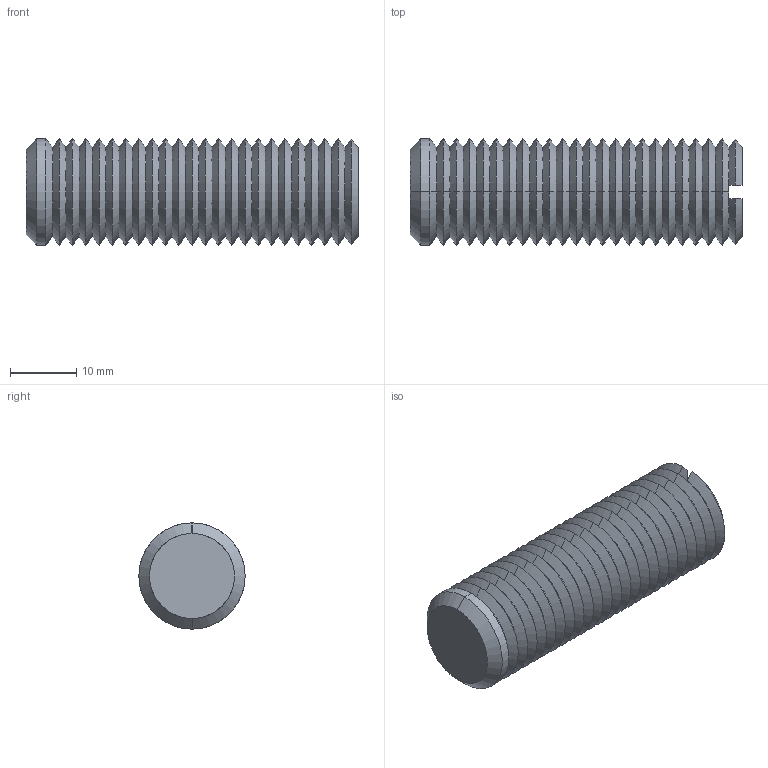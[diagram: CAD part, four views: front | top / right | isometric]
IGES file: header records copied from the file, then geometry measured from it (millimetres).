
Start section: SolidWorks IGES file using analytic representation for surfaces
Global section: file name: C:\Documents and Settings\IANO\Desktop\Temp File\Process pending\EXISTING\34300_v2\34300_v2_20170622_IGES\34300.W0164.igs; native system: SolidWorks 2009; preprocessor: SolidWorks 2009; author: IANO; date: 170622.094423; units: millimetre
Bounding box: 50 x 16 x 16 mm (x, y, z)
Surface area: 3975.1 mm2 (no closed solid volume)
Topology: 0 solids, 0 shells, 104 faces, 480 edges, 480 vertices
Faces by surface type: revolution 98, bspline 6
